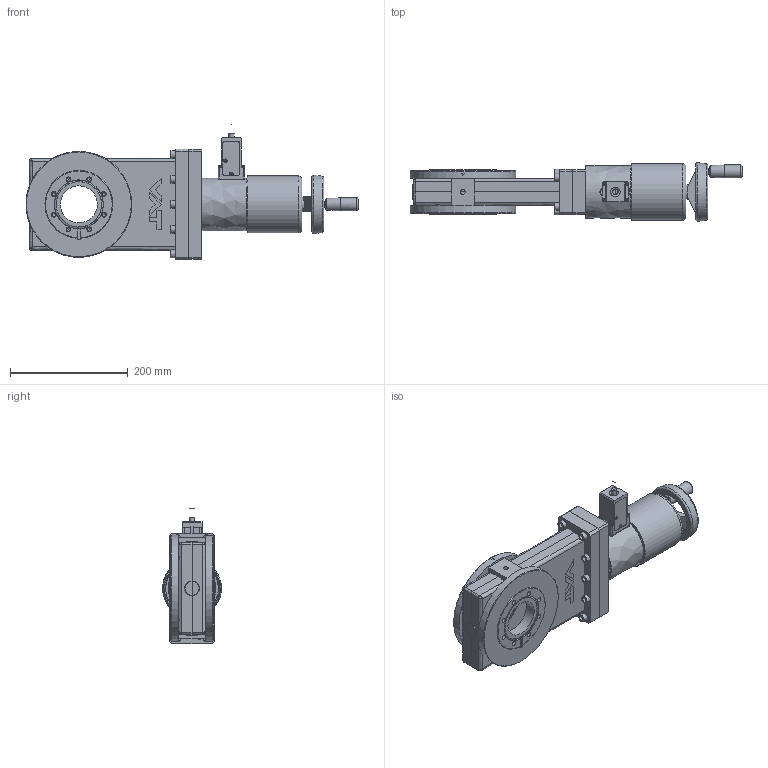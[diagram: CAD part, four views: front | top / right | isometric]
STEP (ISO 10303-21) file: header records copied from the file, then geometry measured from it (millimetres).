
FILE_DESCRIPTION((''),'2;1');
FILE_NAME('C:\TEMP\IDEAS\215948.stp','2007-07-02T17:54:01',('User'),( 'SDRC'),'I-DEAS Master Series 9','UNIX','Yes');
FILE_SCHEMA(('CONFIG_CONTROL_DESIGN'));
Length unit declared in the file: millimetre
Assembly tree (42 placements, depth 0):
Bounding box: 564.98 x 100.02 x 230 mm (x, y, z)
Volume: 1726853.9 mm3; surface area: 647307.3 mm2
Topology: 64 solids, 64 shells, 1039 faces, 2464 edges, 1662 vertices
Faces by surface type: bspline 1039
Entity records: 26015 total; most frequent: CARTESIAN_POINT 12892, ORIENTED_EDGE 3100, EDGE_CURVE 1550, VERTEX_POINT 1019, EDGE_LOOP 861, FACE_OUTER_BOUND 669, ADVANCED_FACE 669, QUASI_UNIFORM_CURVE 641
